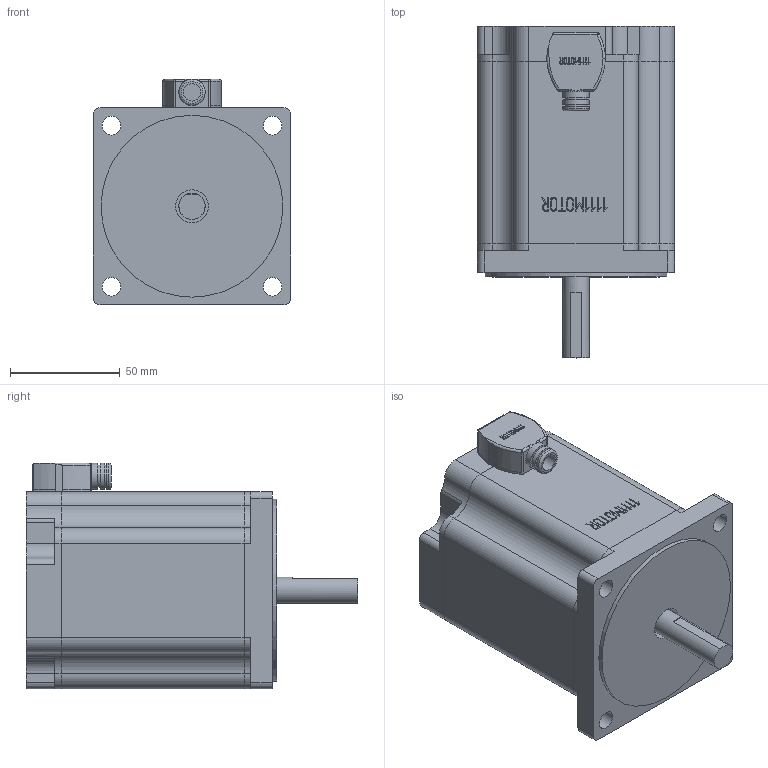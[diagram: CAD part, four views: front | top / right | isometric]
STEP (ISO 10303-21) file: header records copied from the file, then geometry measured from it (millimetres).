
FILE_DESCRIPTION(/* description */ ('Unknown'),/* implementation_level */ '2;1');
FILE_NAME(/* name */ 'BL90L',/* time_stamp */ '2020-12-29T11:21:32+08:00',/* author */ ('Unknown'),/* organization */ ('Unknown'),/* preprocessor_version */ 'ST-DEVELOPER v16.7',/* originating_system */ 'DEX',/* authorisation */ $);
FILE_SCHEMA (('AUTOMOTIVE_DESIGN {1 0 10303 214 3 1 1}'));
Length unit declared in the file: millimetre
Products named in the file (6): BL90L; BL90前; BL90後; BL90軸0; BL90«OÅ@ÝOw‹Ë„; BL90L诀
Assembly tree (5 placements, depth 2):
  BL90L
    BL90前
    BL90後
    BL90軸0
    BL90«OÅ@ÝOw‹Ë„
    BL90L诀
Bounding box: 90 x 151.5 x 103 mm (x, y, z)
Volume: 374750.3 mm3; surface area: 104594.3 mm2
Topology: 5 solids, 5 shells, 320 faces, 840 edges, 557 vertices
Faces by surface type: plane 196, cylinder 93, bspline 27, sphere 3, torus 1
Full cylindrical faces by diameter (mm): 2.459 x6, 3.242 x4, 8 x1, 8.5 x4, 10 x2, 12 x4, 15 x1, 20.8 x1, 30 x1, 80 x2, 83 x1
Entity records: 12954 total; most frequent: CARTESIAN_POINT 2961, ORIENTED_EDGE 1562, DIRECTION 1518, EDGE_CURVE 781, VERTEX_POINT 539, LINE 536, VECTOR 536, AXIS2_PLACEMENT_3D 491
